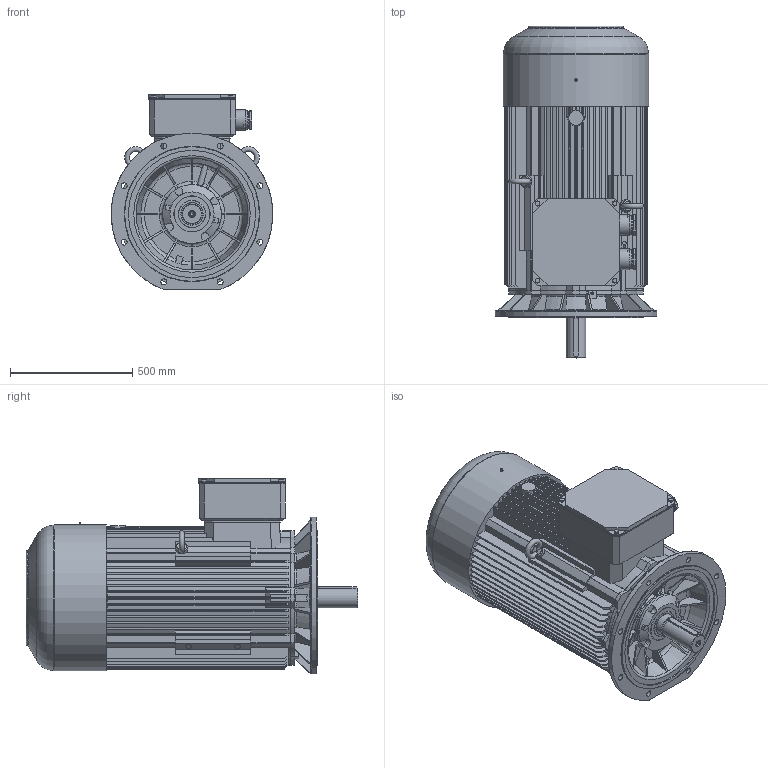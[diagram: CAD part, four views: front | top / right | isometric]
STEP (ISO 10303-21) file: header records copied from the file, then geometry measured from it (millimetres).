
FILE_DESCRIPTION( ( 'Unknown' ), '1' );
FILE_NAME( 'P:/3D_Bry³y silników skatalogowane/SIE/2SIE315/STP_2SIE315/2SIEK315_M6B.stp', 'Unknown', ( 'Unknown' ), ( 'Unknown' ), 'XStep 1.0', 'Unknown', ' ' );
FILE_SCHEMA( ( 'CONFIG_CONTROL_DESIGN' ) );
Length unit declared in the file: millimetre
Products named in the file (4): 1; 2; 3; 4
Bounding box: 660 x 1354.99 x 799.5 mm (x, y, z)
Volume: 290063507.1 mm3; surface area: 6853316.1 mm2
Topology: 4 solids, 20 shells, 1304 faces, 3538 edges, 2325 vertices
Faces by surface type: plane 794, cylinder 266, cone 121, torus 107, bspline 16
Full cylindrical faces by diameter (mm): 1.6 x2, 5 x4, 10.106 x4, 13.835 x1, 16.63 x4, 17.294 x1, 20 x1, 21 x1, 24 x12, 50 x2, 55 x2, 57 x4, 65 x4, 70 x2, 71 x6, 72 x2, 72.752 x2, 76 x2, 79.999 x1, 85 x2, 89.5 x1, 90 x1, 99.4 x1, 100 x1, 111.399 x1, 112 x1, 119.4 x1, 119.999 x1, 131.399 x1, 132 x1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
Entity records: 50113 total; most frequent: CARTESIAN_POINT 18033, ORIENTED_EDGE 6688, DIRECTION 6414, EDGE_CURVE 3344, VERTEX_POINT 2273, AXIS2_PLACEMENT_3D 2243, LINE 1928, VECTOR 1928
